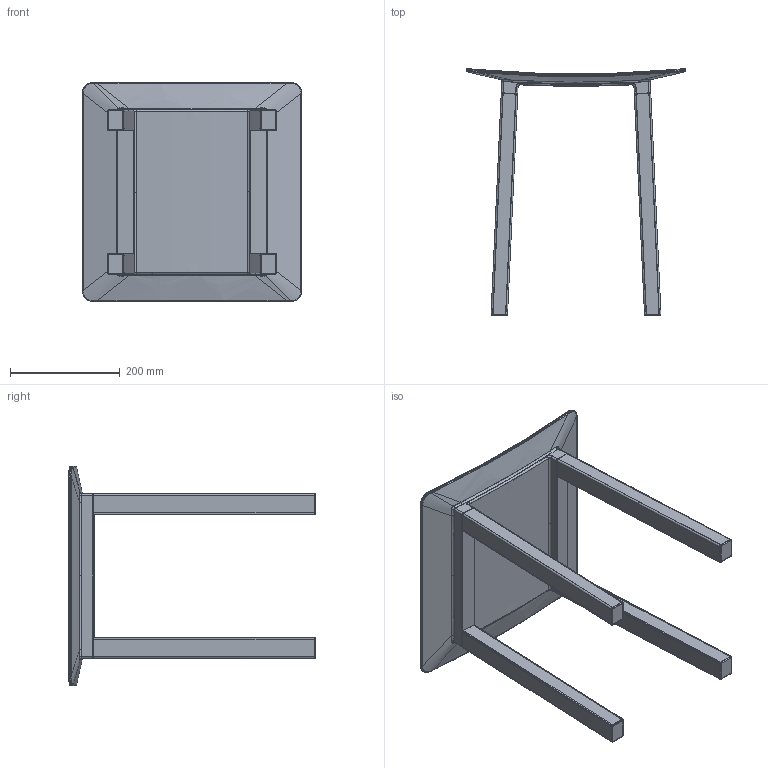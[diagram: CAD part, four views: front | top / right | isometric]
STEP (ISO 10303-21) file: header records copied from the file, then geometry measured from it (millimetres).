
FILE_DESCRIPTION (( 'STEP AP203' ), '1' );
FILE_NAME ('NERVOSA STOOL.STEP', '2023-03-21T13:37:43', ( '' ), ( '' ), 'SwSTEP 2.0', 'SolidWorks 2023', '' );
FILE_SCHEMA (( 'CONFIG_CONTROL_DESIGN' ));
Length unit declared in the file: millimetre
Products named in the file (3): Woak_Stool__17_June_2021-1^NERVOSA STOOL; NERVOSA STOOL; Group1^NERVOSA STOOL
Assembly tree (2 placements, depth 2):
  NERVOSA STOOL
    Group1^NERVOSA STOOL
    Woak_Stool__17_June_2021-1^NERVOSA STOOL
Bounding box: 400.82 x 449.9 x 400 mm (x, y, z)
Volume: 9437837.2 mm3; surface area: 1138764.3 mm2
Topology: 2 solids, 2 shells, 331 faces, 789 edges, 454 vertices
Faces by surface type: bspline 157, cylinder 92, plane 70, torus 12
Entity records: 17107 total; most frequent: CARTESIAN_POINT 10627, ORIENTED_EDGE 1562, DIRECTION 828, EDGE_CURVE 781, VERTEX_POINT 454, B_SPLINE_CURVE_WITH_KNOTS 404, FACE_OUTER_BOUND 331, EDGE_LOOP 331
